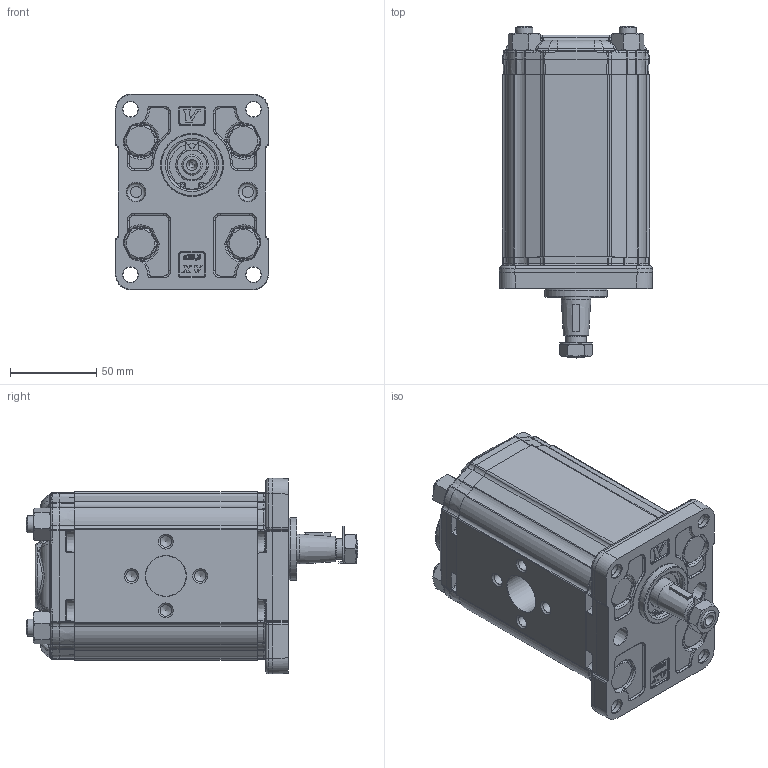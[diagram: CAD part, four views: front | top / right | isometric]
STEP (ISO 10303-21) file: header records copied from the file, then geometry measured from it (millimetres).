
FILE_DESCRIPTION(/* description */ ('Unknown'),/* implementation_level */ '2;1');
FILE_NAME(/* name */ 'X2U6301EQPA',/* time_stamp */ '2026-06-03T18:01:11+02:00',/* author */ ('Unknown'),/* organization */ ('Unknown'),/* preprocessor_version */ 'ST-DEVELOPER v16.7',/* originating_system */ 'Solid Edge',/* authorisation */ 'Unknown');
FILE_SCHEMA (('AUTOMOTIVE_DESIGN {1 0 10303 214 3 1 1}'));
Products named in the file (5): X2U6301EQPA; X2U01; 2E; X2QPH106; XU201-A
Assembly tree (4 placements, depth 2):
  X2U6301EQPA
    X2U01
    2E
    X2QPH106
    XU201-A
Bounding box: 89 x 192.95 x 113.7 mm (x, y, z)
Volume: 1060145.6 mm3; surface area: 142162.5 mm2
Topology: 4 solids, 5 shells, 2453 faces, 6014 edges, 3650 vertices
Faces by surface type: cylinder 637, bspline 623, plane 597, torus 299, cone 266, sphere 31
Full cylindrical faces by diameter (mm): 2 x2, 6.647 x8, 8.796 x4, 8.798 x4, 10 x12, 10.5 x12, 11.5 x4, 12 x2, 12.5 x1, 16 x4, 17.42 x1, 18 x1, 20 x1, 20.595 x1, 23.332 x1, 23.5 x1, 25 x1, 25.834 x1, 28.5 x1, 28.56 x1, 28.57 x1, 28.8 x1, 30.5 x1, 36.5 x1
Entity records: 111304 total; most frequent: CARTESIAN_POINT 42903, ORIENTED_EDGE 11254, DIRECTION 9117, EDGE_CURVE 5627, AXIS2_PLACEMENT_3D 3633, VERTEX_POINT 3538, FACE_BOUND 2849, EDGE_LOOP 2839
